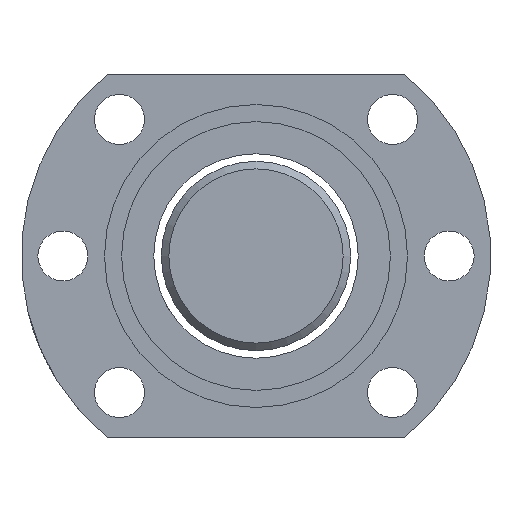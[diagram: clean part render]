
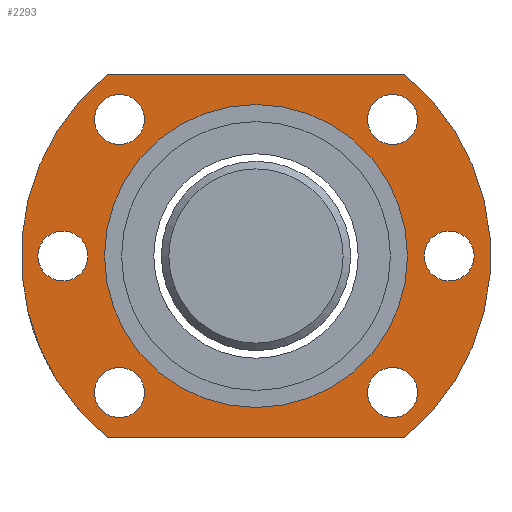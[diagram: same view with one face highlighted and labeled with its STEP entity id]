
A CAD part, left-side view. The second image highlights one B-rep face of the part: STEP entity #2293.
In plain terms, the highlighted planar face has unit normal (-1, 0, 0).
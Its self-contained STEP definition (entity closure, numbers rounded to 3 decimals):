
#24 = CARTESIAN_POINT ( 'NONE',  ( -65.485, -52.353, -3.633 ) ) ;
#51 = ORIENTED_EDGE ( 'NONE', *, *, #169, .T. ) ;
#110 = CARTESIAN_POINT ( 'NONE',  ( -65.485, -52.353, -3.633 ) ) ;
#136 = DIRECTION ( 'NONE',  ( -1., 0., 0. ) ) ;
#147 = CARTESIAN_POINT ( 'NONE',  ( -65.485, -52.353, -23.633 ) ) ;
#166 = VERTEX_POINT ( 'NONE', #1330 ) ;
#169 = EDGE_CURVE ( 'NONE', #231, #1900, #211, .T. ) ;
#183 = CARTESIAN_POINT ( 'NONE',  ( -65.485, -71.974, 20.367 ) ) ;
#209 = FACE_BOUND ( 'NONE', #565, .T. ) ;
#211 = CIRCLE ( 'NONE', #1034, 31. ) ;
#223 = EDGE_CURVE ( 'NONE', #2477, #1104, #1639, .T. ) ;
#228 = DIRECTION ( 'NONE',  ( -1., 0., 0. ) ) ;
#231 = VERTEX_POINT ( 'NONE', #725 ) ;
#278 = DIRECTION ( 'NONE',  ( -1., 0., 0. ) ) ;
#287 = FACE_BOUND ( 'NONE', #992, .T. ) ;
#306 = ORIENTED_EDGE ( 'NONE', *, *, #2260, .T. ) ;
#313 = DIRECTION ( 'NONE',  ( 0., 0., -1. ) ) ;
#334 = VERTEX_POINT ( 'NONE', #2287 ) ;
#453 = AXIS2_PLACEMENT_3D ( 'NONE', #708, #2411, #1451 ) ;
#482 = CIRCLE ( 'NONE', #809, 20. ) ;
#538 = DIRECTION ( 'NONE',  ( -1., 0., 0. ) ) ;
#542 = AXIS2_PLACEMENT_3D ( 'NONE', #2278, #136, #313 ) ;
#556 = DIRECTION ( 'NONE',  ( 0., 0., 1. ) ) ;
#565 = EDGE_LOOP ( 'NONE', ( #811 ) ) ;
#570 = CARTESIAN_POINT ( 'NONE',  ( -65.485, -70.384, 17.698 ) ) ;
#576 = EDGE_CURVE ( 'NONE', #760, #760, #1867, .T. ) ;
#583 = CARTESIAN_POINT ( 'NONE',  ( -65.485, -34.322, -21.665 ) ) ;
#585 = EDGE_CURVE ( 'NONE', #2313, #2313, #1468, .T. ) ;
#596 = DIRECTION ( 'NONE',  ( 1., 0., 0. ) ) ;
#613 = CARTESIAN_POINT ( 'NONE',  ( -65.485, -32.731, -27.633 ) ) ;
#681 = CARTESIAN_POINT ( 'NONE',  ( -65.485, -71.974, 20.367 ) ) ;
#708 = CARTESIAN_POINT ( 'NONE',  ( -65.485, -70.384, -21.665 ) ) ;
#725 = CARTESIAN_POINT ( 'NONE',  ( -65.485, -71.974, -27.633 ) ) ;
#751 = EDGE_LOOP ( 'NONE', ( #1502 ) ) ;
#754 = EDGE_CURVE ( 'NONE', #1343, #1343, #2196, .T. ) ;
#760 = VERTEX_POINT ( 'NONE', #570 ) ;
#766 = ORIENTED_EDGE ( 'NONE', *, *, #947, .T. ) ;
#790 = LINE ( 'NONE', #1217, #840 ) ;
#794 = EDGE_LOOP ( 'NONE', ( #766 ) ) ;
#809 = AXIS2_PLACEMENT_3D ( 'NONE', #2476, #538, #1501 ) ;
#811 = ORIENTED_EDGE ( 'NONE', *, *, #754, .F. ) ;
#815 = VERTEX_POINT ( 'NONE', #2184 ) ;
#840 = VECTOR ( 'NONE', #1172, 1000. ) ;
#854 = AXIS2_PLACEMENT_3D ( 'NONE', #976, #1190, #990 ) ;
#870 = CARTESIAN_POINT ( 'NONE',  ( -65.485, -32.731, 20.367 ) ) ;
#889 = ORIENTED_EDGE ( 'NONE', *, *, #576, .T. ) ;
#947 = EDGE_CURVE ( 'NONE', #334, #334, #1551, .T. ) ;
#957 = VERTEX_POINT ( 'NONE', #147 ) ;
#975 = EDGE_LOOP ( 'NONE', ( #889 ) ) ;
#976 = CARTESIAN_POINT ( 'NONE',  ( -65.485, -77.853, -3.633 ) ) ;
#984 = DIRECTION ( 'NONE',  ( -1., 0., 0. ) ) ;
#990 = DIRECTION ( 'NONE',  ( 0., 0., 1. ) ) ;
#992 = EDGE_LOOP ( 'NONE', ( #1924 ) ) ;
#1034 = AXIS2_PLACEMENT_3D ( 'NONE', #24, #228, #1203 ) ;
#1104 = VERTEX_POINT ( 'NONE', #613 ) ;
#1119 = EDGE_CURVE ( 'NONE', #166, #166, #2022, .T. ) ;
#1146 = CARTESIAN_POINT ( 'NONE',  ( -65.485, -34.322, -18.365 ) ) ;
#1151 = ORIENTED_EDGE ( 'NONE', *, *, #223, .T. ) ;
#1156 = CARTESIAN_POINT ( 'NONE',  ( -65.485, -26.853, -0.333 ) ) ;
#1163 = AXIS2_PLACEMENT_3D ( 'NONE', #2297, #1513, #556 ) ;
#1172 = DIRECTION ( 'NONE',  ( 0., -1., 0. ) ) ;
#1190 = DIRECTION ( 'NONE',  ( 1., 0., 0. ) ) ;
#1203 = DIRECTION ( 'NONE',  ( 0., 0., -1. ) ) ;
#1217 = CARTESIAN_POINT ( 'NONE',  ( -65.485, -32.731, -27.633 ) ) ;
#1287 = EDGE_CURVE ( 'NONE', #957, #957, #482, .T. ) ;
#1311 = EDGE_CURVE ( 'NONE', #1900, #2477, #1861, .T. ) ;
#1330 = CARTESIAN_POINT ( 'NONE',  ( -65.485, -77.853, -0.333 ) ) ;
#1343 = VERTEX_POINT ( 'NONE', #1156 ) ;
#1382 = DIRECTION ( 'NONE',  ( 0., 0., 1. ) ) ;
#1430 = AXIS2_PLACEMENT_3D ( 'NONE', #1988, #1811, #2362 ) ;
#1451 = DIRECTION ( 'NONE',  ( 0., 0., 1. ) ) ;
#1468 = CIRCLE ( 'NONE', #2438, 3.3 ) ;
#1490 = ORIENTED_EDGE ( 'NONE', *, *, #585, .F. ) ;
#1501 = DIRECTION ( 'NONE',  ( 0., 0., -1. ) ) ;
#1502 = ORIENTED_EDGE ( 'NONE', *, *, #1119, .T. ) ;
#1513 = DIRECTION ( 'NONE',  ( -1., 0., 0. ) ) ;
#1551 = CIRCLE ( 'NONE', #453, 3.3 ) ;
#1603 = FACE_BOUND ( 'NONE', #2486, .T. ) ;
#1608 = VECTOR ( 'NONE', #2233, 1000. ) ;
#1610 = AXIS2_PLACEMENT_3D ( 'NONE', #110, #278, #2215 ) ;
#1639 = CIRCLE ( 'NONE', #542, 31. ) ;
#1738 = CARTESIAN_POINT ( 'NONE',  ( -65.485, -70.384, 14.398 ) ) ;
#1765 = FACE_OUTER_BOUND ( 'NONE', #2500, .T. ) ;
#1811 = DIRECTION ( 'NONE',  ( -1., 0., 0. ) ) ;
#1861 = LINE ( 'NONE', #681, #1608 ) ;
#1867 = CIRCLE ( 'NONE', #2236, 3.3 ) ;
#1900 = VERTEX_POINT ( 'NONE', #183 ) ;
#1924 = ORIENTED_EDGE ( 'NONE', *, *, #1287, .F. ) ;
#1954 = FACE_BOUND ( 'NONE', #975, .T. ) ;
#1988 = CARTESIAN_POINT ( 'NONE',  ( -65.485, -26.853, -3.633 ) ) ;
#1998 = ORIENTED_EDGE ( 'NONE', *, *, #1311, .T. ) ;
#2007 = EDGE_CURVE ( 'NONE', #815, #815, #2012, .T. ) ;
#2012 = CIRCLE ( 'NONE', #1163, 3.3 ) ;
#2022 = CIRCLE ( 'NONE', #854, 3.3 ) ;
#2103 = DIRECTION ( 'NONE',  ( 0., 0., 1. ) ) ;
#2125 = ORIENTED_EDGE ( 'NONE', *, *, #2007, .F. ) ;
#2148 = FACE_BOUND ( 'NONE', #794, .T. ) ;
#2184 = CARTESIAN_POINT ( 'NONE',  ( -65.485, -34.322, 17.698 ) ) ;
#2196 = CIRCLE ( 'NONE', #1430, 3.3 ) ;
#2215 = DIRECTION ( 'NONE',  ( 0., 0., 1. ) ) ;
#2233 = DIRECTION ( 'NONE',  ( 0., 1., 0. ) ) ;
#2236 = AXIS2_PLACEMENT_3D ( 'NONE', #1738, #596, #1382 ) ;
#2239 = FACE_BOUND ( 'NONE', #751, .T. ) ;
#2251 = PLANE ( 'NONE',  #1610 ) ;
#2260 = EDGE_CURVE ( 'NONE', #1104, #231, #790, .T. ) ;
#2278 = CARTESIAN_POINT ( 'NONE',  ( -65.485, -52.353, -3.633 ) ) ;
#2287 = CARTESIAN_POINT ( 'NONE',  ( -65.485, -70.384, -18.365 ) ) ;
#2293 = ADVANCED_FACE ( 'NONE', ( #1954, #2148, #1603, #2379, #209, #1765, #287, #2239 ), #2251, .T. ) ;
#2297 = CARTESIAN_POINT ( 'NONE',  ( -65.485, -34.322, 14.398 ) ) ;
#2313 = VERTEX_POINT ( 'NONE', #1146 ) ;
#2362 = DIRECTION ( 'NONE',  ( 0., 0., 1. ) ) ;
#2379 = FACE_BOUND ( 'NONE', #2435, .T. ) ;
#2411 = DIRECTION ( 'NONE',  ( 1., 0., 0. ) ) ;
#2435 = EDGE_LOOP ( 'NONE', ( #2125 ) ) ;
#2438 = AXIS2_PLACEMENT_3D ( 'NONE', #583, #984, #2103 ) ;
#2476 = CARTESIAN_POINT ( 'NONE',  ( -65.485, -52.353, -3.633 ) ) ;
#2477 = VERTEX_POINT ( 'NONE', #870 ) ;
#2486 = EDGE_LOOP ( 'NONE', ( #1490 ) ) ;
#2500 = EDGE_LOOP ( 'NONE', ( #1151, #306, #51, #1998 ) ) ;
